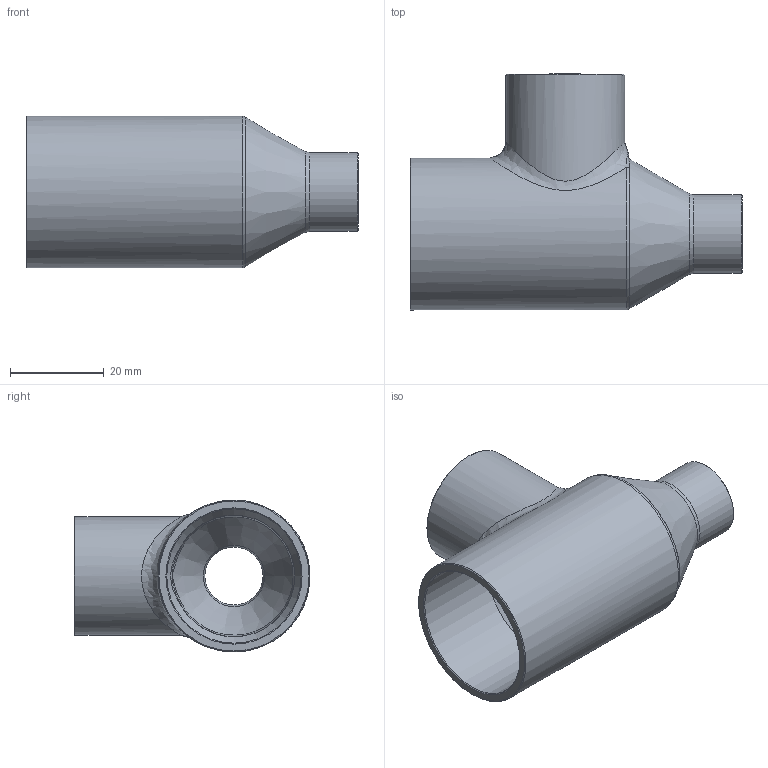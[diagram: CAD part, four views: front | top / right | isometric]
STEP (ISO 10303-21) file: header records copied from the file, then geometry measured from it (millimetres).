
FILE_DESCRIPTION((''),'2;1');
FILE_NAME('G:\SANHA-Ternat\Technik\Management\Bouwmaten + markeringen\z-maattekeningen 3D\29000s\291301187812_3d.stp','2017-08-01T11:52:36',('vdvijverd'),(''),'Autodesk Inventor 2009','Autodesk Inventor 2009','');
FILE_SCHEMA(('AUTOMOTIVE_DESIGN { 1 0 10303 214 1 1 1 1 }'));
Length unit declared in the file: millimetre
Products named in the file (1): 291301187812_3d
Bounding box: 71 x 50.45 x 32.5 mm (x, y, z)
Volume: 16372.7 mm3; surface area: 14521.2 mm2
Topology: 1 solids, 1 shells, 35 faces, 82 edges, 48 vertices
Faces by surface type: cone 10, cylinder 9, bspline 9, plane 4, torus 3
Full cylindrical faces by diameter (mm): 12.82 x1, 16.82 x1, 22.375 x1, 25.4 x1, 28.725 x1, 32.5 x1
Entity records: 2971 total; most frequent: CARTESIAN_POINT 2303, DIRECTION 126, ORIENTED_EDGE 112, AXIS2_PLACEMENT_3D 63, EDGE_LOOP 58, EDGE_CURVE 56, VERTEX_POINT 42, CIRCLE 36
